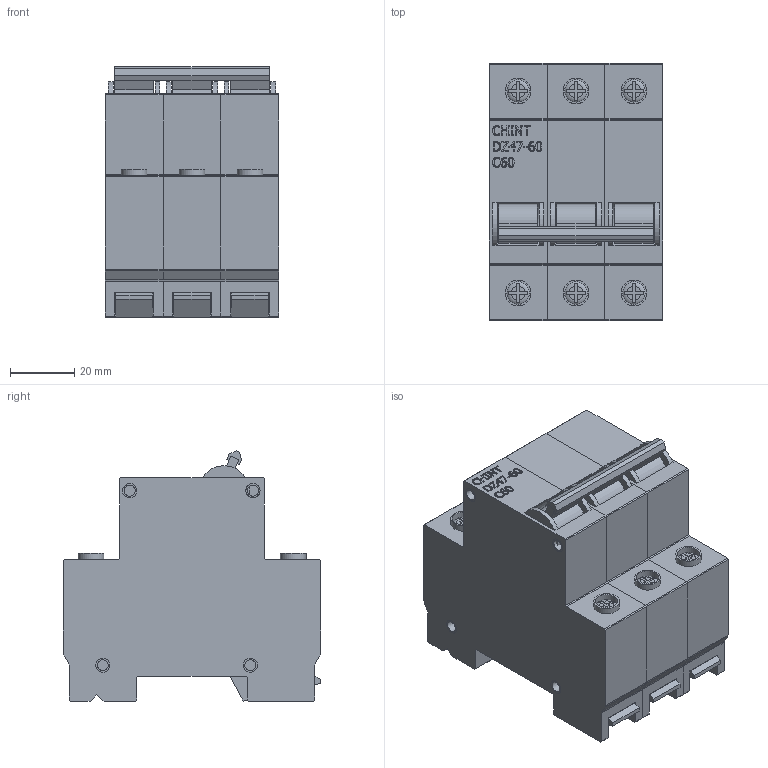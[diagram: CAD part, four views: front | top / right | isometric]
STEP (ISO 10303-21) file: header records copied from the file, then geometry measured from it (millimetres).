
FILE_DESCRIPTION(/* description */ (''),/* implementation_level */ '2;1');
FILE_NAME(/* name */ 'D:\CHINT\DZ47-60\Авт. выкл.DZ47-60 3P 16A 4.5kA х-ка B (CHINT).stp',/* time_stamp */ '2017-09-03T17:09:59+04:00',/* author */ ('RSagdiev'),/* organization */ (''),/* preprocessor_version */ 'ST-DEVELOPER v16.5',/* originating_system */ 'Autodesk Inventor 2017',/* authorisation */ '');
FILE_SCHEMA (('AUTOMOTIVE_DESIGN { 1 0 10303 214 3 1 1 }'));
Length unit declared in the file: millimetre
Products named in the file (1): Авт. выкл.DZ47-60 3P 16A 4.5kA \X2\0445
\X0\-ка B (CHINT)
Bounding box: 54 x 80 x 77.79 mm (x, y, z)
Volume: 232475.3 mm3; surface area: 55864.4 mm2
Topology: 40 solids, 40 shells, 731 faces, 1779 edges, 1176 vertices
Faces by surface type: plane 518, cylinder 105, bspline 102, torus 6
Full cylindrical faces by diameter (mm): 3.403 x36, 4.403 x36, 7 x6, 8 x6
Entity records: 21753 total; most frequent: CARTESIAN_POINT 5214, ORIENTED_EDGE 3348, DIRECTION 3072, EDGE_CURVE 1674, VERTEX_POINT 1164, LINE 1128, VECTOR 1128, AXIS2_PLACEMENT_3D 972
